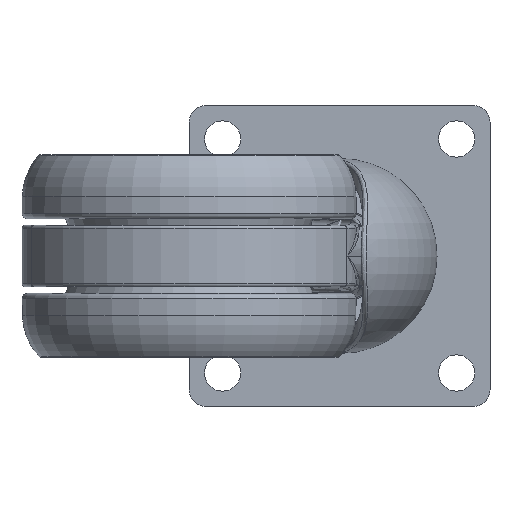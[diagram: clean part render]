
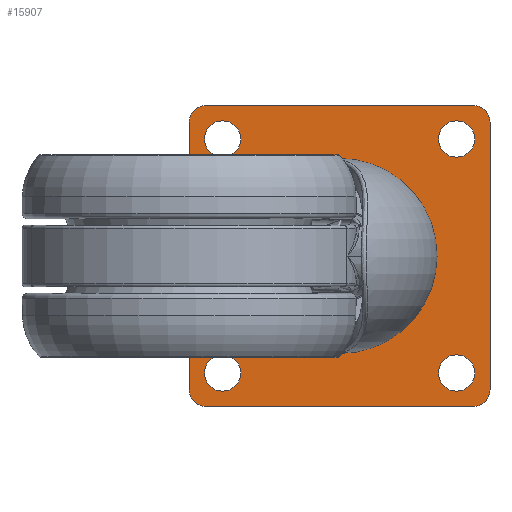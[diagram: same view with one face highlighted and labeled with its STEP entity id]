
A CAD part, front view. The second image highlights one B-rep face of the part: STEP entity #15907.
In plain terms, the highlighted planar face has unit normal (0, -1, 0).
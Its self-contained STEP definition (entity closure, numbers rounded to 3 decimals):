
#149 = DIRECTION ( 'NONE',  ( 0., -1., 0. ) ) ;
#200 = PLANE ( 'NONE',  #5479 ) ;
#342 = AXIS2_PLACEMENT_3D ( 'NONE', #928, #2831, #4841 ) ;
#452 = FACE_OUTER_BOUND ( 'NONE', #14639, .T. ) ;
#651 = CIRCLE ( 'NONE', #24012, 3. ) ;
#928 = CARTESIAN_POINT ( 'NONE',  ( 27., 48.5, 0. ) ) ;
#1193 = ORIENTED_EDGE ( 'NONE', *, *, #6321, .T. ) ;
#1530 = CARTESIAN_POINT ( 'NONE',  ( 2.75, 48.5, 21. ) ) ;
#1555 = AXIS2_PLACEMENT_3D ( 'NONE', #4183, #149, #19420 ) ;
#2444 = DIRECTION ( 'NONE',  ( -1., 0., 0. ) ) ;
#2487 = VERTEX_POINT ( 'NONE', #16184 ) ;
#2566 = ORIENTED_EDGE ( 'NONE', *, *, #17574, .F. ) ;
#2610 = EDGE_LOOP ( 'NONE', ( #19864 ) ) ;
#2667 = CARTESIAN_POINT ( 'NONE',  ( 3., 48.5, -24. ) ) ;
#2700 = DIRECTION ( 'NONE',  ( -1., 0., 0. ) ) ;
#2766 = AXIS2_PLACEMENT_3D ( 'NONE', #23760, #6486, #2700 ) ;
#2790 = VECTOR ( 'NONE', #4566, 1000. ) ;
#2831 = DIRECTION ( 'NONE',  ( 0., 1., 0. ) ) ;
#2904 = CARTESIAN_POINT ( 'NONE',  ( 3., 48.5, -27. ) ) ;
#2996 = EDGE_LOOP ( 'NONE', ( #7311 ) ) ;
#3294 = VERTEX_POINT ( 'NONE', #14895 ) ;
#4045 = VERTEX_POINT ( 'NONE', #10094 ) ;
#4101 = CARTESIAN_POINT ( 'NONE',  ( 54., 48.5, 24. ) ) ;
#4113 = DIRECTION ( 'NONE',  ( 0., -1., 0. ) ) ;
#4183 = CARTESIAN_POINT ( 'NONE',  ( 51., 48.5, 24. ) ) ;
#4231 = FACE_BOUND ( 'NONE', #7212, .T. ) ;
#4358 = DIRECTION ( 'NONE',  ( -1., 0., 0. ) ) ;
#4377 = EDGE_CURVE ( 'NONE', #23628, #14721, #6638, .T. ) ;
#4566 = DIRECTION ( 'NONE',  ( -1., 0., 0. ) ) ;
#4711 = CARTESIAN_POINT ( 'NONE',  ( 0., 48.5, -24. ) ) ;
#4841 = DIRECTION ( 'NONE',  ( -1., 0., 0. ) ) ;
#4961 = CARTESIAN_POINT ( 'NONE',  ( 54., 48.5, -24. ) ) ;
#5465 = CARTESIAN_POINT ( 'NONE',  ( 48., 48.5, 21. ) ) ;
#5479 = AXIS2_PLACEMENT_3D ( 'NONE', #6257, #12171, #4358 ) ;
#5869 = VERTEX_POINT ( 'NONE', #4711 ) ;
#6058 = EDGE_CURVE ( 'NONE', #23459, #23459, #18265, .T. ) ;
#6202 = EDGE_LOOP ( 'NONE', ( #8755 ) ) ;
#6257 = CARTESIAN_POINT ( 'NONE',  ( 41., 48.5, 0. ) ) ;
#6321 = EDGE_CURVE ( 'NONE', #5869, #15730, #14683, .T. ) ;
#6391 = DIRECTION ( 'NONE',  ( -1., 0., 0. ) ) ;
#6486 = DIRECTION ( 'NONE',  ( 0., 1., 0. ) ) ;
#6600 = CARTESIAN_POINT ( 'NONE',  ( 48., 48.5, -21. ) ) ;
#6601 = DIRECTION ( 'NONE',  ( 0., 1., 0. ) ) ;
#6638 = CIRCLE ( 'NONE', #12669, 3. ) ;
#7108 = DIRECTION ( 'NONE',  ( 0., -1., 0. ) ) ;
#7212 = EDGE_LOOP ( 'NONE', ( #21742 ) ) ;
#7311 = ORIENTED_EDGE ( 'NONE', *, *, #11604, .T. ) ;
#7318 = VERTEX_POINT ( 'NONE', #4961 ) ;
#7354 = CARTESIAN_POINT ( 'NONE',  ( 51., 48.5, -24. ) ) ;
#7477 = DIRECTION ( 'NONE',  ( -1., 0., 0. ) ) ;
#7494 = ORIENTED_EDGE ( 'NONE', *, *, #19477, .T. ) ;
#7556 = ORIENTED_EDGE ( 'NONE', *, *, #16568, .T. ) ;
#7689 = LINE ( 'NONE', #19021, #14851 ) ;
#7713 = DIRECTION ( 'NONE',  ( -1., 0., 0. ) ) ;
#7793 = EDGE_CURVE ( 'NONE', #4045, #4045, #20741, .T. ) ;
#8394 = FACE_BOUND ( 'NONE', #6202, .T. ) ;
#8461 = CARTESIAN_POINT ( 'NONE',  ( 44.75, 48.5, 21. ) ) ;
#8487 = DIRECTION ( 'NONE',  ( -1., 0., 0. ) ) ;
#8755 = ORIENTED_EDGE ( 'NONE', *, *, #6058, .T. ) ;
#9330 = CARTESIAN_POINT ( 'NONE',  ( 2.75, 48.5, -21. ) ) ;
#9584 = CARTESIAN_POINT ( 'NONE',  ( 3., 48.5, 27. ) ) ;
#10094 = CARTESIAN_POINT ( 'NONE',  ( 44.75, 48.5, -21. ) ) ;
#10244 = CIRCLE ( 'NONE', #17472, 3.25 ) ;
#10346 = DIRECTION ( 'NONE',  ( 0., -1., 0. ) ) ;
#11470 = DIRECTION ( 'NONE',  ( 1., 0., 0. ) ) ;
#11494 = EDGE_CURVE ( 'NONE', #3294, #3294, #13231, .T. ) ;
#11604 = EDGE_CURVE ( 'NONE', #20929, #20929, #12005, .T. ) ;
#11620 = DIRECTION ( 'NONE',  ( 0., 1., 0. ) ) ;
#11693 = ORIENTED_EDGE ( 'NONE', *, *, #11494, .T. ) ;
#11919 = EDGE_CURVE ( 'NONE', #23628, #16574, #7689, .T. ) ;
#12005 = CIRCLE ( 'NONE', #2766, 3.25 ) ;
#12045 = CARTESIAN_POINT ( 'NONE',  ( 0., 48.5, 24. ) ) ;
#12171 = DIRECTION ( 'NONE',  ( 0., 1., 0. ) ) ;
#12395 = DIRECTION ( 'NONE',  ( 0., 1., 0. ) ) ;
#12415 = CIRCLE ( 'NONE', #1555, 3. ) ;
#12669 = AXIS2_PLACEMENT_3D ( 'NONE', #19982, #4113, #6391 ) ;
#13000 = VERTEX_POINT ( 'NONE', #9330 ) ;
#13210 = CARTESIAN_POINT ( 'NONE',  ( 54., 48.5, 0. ) ) ;
#13231 = CIRCLE ( 'NONE', #342, 14. ) ;
#13687 = EDGE_CURVE ( 'NONE', #13000, #13000, #10244, .T. ) ;
#14077 = FACE_BOUND ( 'NONE', #2610, .T. ) ;
#14639 = EDGE_LOOP ( 'NONE', ( #18794, #1193, #17827, #7556, #2566, #7494, #24448, #20144 ) ) ;
#14683 = CIRCLE ( 'NONE', #21906, 3. ) ;
#14721 = VERTEX_POINT ( 'NONE', #12045 ) ;
#14851 = VECTOR ( 'NONE', #11470, 1000. ) ;
#14895 = CARTESIAN_POINT ( 'NONE',  ( 13., 48.5, 0. ) ) ;
#15730 = VERTEX_POINT ( 'NONE', #2904 ) ;
#15907 = ADVANCED_FACE ( 'NONE', ( #8394, #4231, #19601, #23784, #14077, #452 ), #200, .F. ) ;
#16184 = CARTESIAN_POINT ( 'NONE',  ( 51., 48.5, -27. ) ) ;
#16568 = EDGE_CURVE ( 'NONE', #2487, #7318, #651, .T. ) ;
#16574 = VERTEX_POINT ( 'NONE', #24862 ) ;
#16887 = DIRECTION ( 'NONE',  ( 0., 0., 1. ) ) ;
#17472 = AXIS2_PLACEMENT_3D ( 'NONE', #23873, #6601, #2444 ) ;
#17574 = EDGE_CURVE ( 'NONE', #22307, #7318, #19102, .T. ) ;
#17827 = ORIENTED_EDGE ( 'NONE', *, *, #22206, .F. ) ;
#18035 = DIRECTION ( 'NONE',  ( -1., 0., 0. ) ) ;
#18265 = CIRCLE ( 'NONE', #24727, 3.25 ) ;
#18737 = EDGE_LOOP ( 'NONE', ( #11693 ) ) ;
#18794 = ORIENTED_EDGE ( 'NONE', *, *, #23167, .F. ) ;
#18796 = VECTOR ( 'NONE', #18983, 1000. ) ;
#18983 = DIRECTION ( 'NONE',  ( 0., 0., -1. ) ) ;
#19009 = CARTESIAN_POINT ( 'NONE',  ( 0., 48.5, 0. ) ) ;
#19021 = CARTESIAN_POINT ( 'NONE',  ( 41., 48.5, 27. ) ) ;
#19102 = LINE ( 'NONE', #13210, #18796 ) ;
#19121 = AXIS2_PLACEMENT_3D ( 'NONE', #6600, #12395, #8487 ) ;
#19420 = DIRECTION ( 'NONE',  ( -1., 0., 0. ) ) ;
#19477 = EDGE_CURVE ( 'NONE', #22307, #16574, #12415, .T. ) ;
#19601 = FACE_BOUND ( 'NONE', #18737, .T. ) ;
#19864 = ORIENTED_EDGE ( 'NONE', *, *, #13687, .T. ) ;
#19982 = CARTESIAN_POINT ( 'NONE',  ( 3., 48.5, 24. ) ) ;
#20105 = VECTOR ( 'NONE', #16887, 1000. ) ;
#20144 = ORIENTED_EDGE ( 'NONE', *, *, #4377, .T. ) ;
#20332 = CARTESIAN_POINT ( 'NONE',  ( 41., 48.5, -27. ) ) ;
#20741 = CIRCLE ( 'NONE', #19121, 3.25 ) ;
#20929 = VERTEX_POINT ( 'NONE', #1530 ) ;
#21742 = ORIENTED_EDGE ( 'NONE', *, *, #7793, .T. ) ;
#21906 = AXIS2_PLACEMENT_3D ( 'NONE', #2667, #10346, #18035 ) ;
#22206 = EDGE_CURVE ( 'NONE', #2487, #15730, #23995, .T. ) ;
#22307 = VERTEX_POINT ( 'NONE', #4101 ) ;
#22694 = LINE ( 'NONE', #19009, #20105 ) ;
#23167 = EDGE_CURVE ( 'NONE', #5869, #14721, #22694, .T. ) ;
#23459 = VERTEX_POINT ( 'NONE', #8461 ) ;
#23628 = VERTEX_POINT ( 'NONE', #9584 ) ;
#23760 = CARTESIAN_POINT ( 'NONE',  ( 6., 48.5, 21. ) ) ;
#23784 = FACE_BOUND ( 'NONE', #2996, .T. ) ;
#23873 = CARTESIAN_POINT ( 'NONE',  ( 6., 48.5, -21. ) ) ;
#23995 = LINE ( 'NONE', #20332, #2790 ) ;
#24012 = AXIS2_PLACEMENT_3D ( 'NONE', #7354, #7108, #7477 ) ;
#24448 = ORIENTED_EDGE ( 'NONE', *, *, #11919, .F. ) ;
#24727 = AXIS2_PLACEMENT_3D ( 'NONE', #5465, #11620, #7713 ) ;
#24862 = CARTESIAN_POINT ( 'NONE',  ( 51., 48.5, 27. ) ) ;
